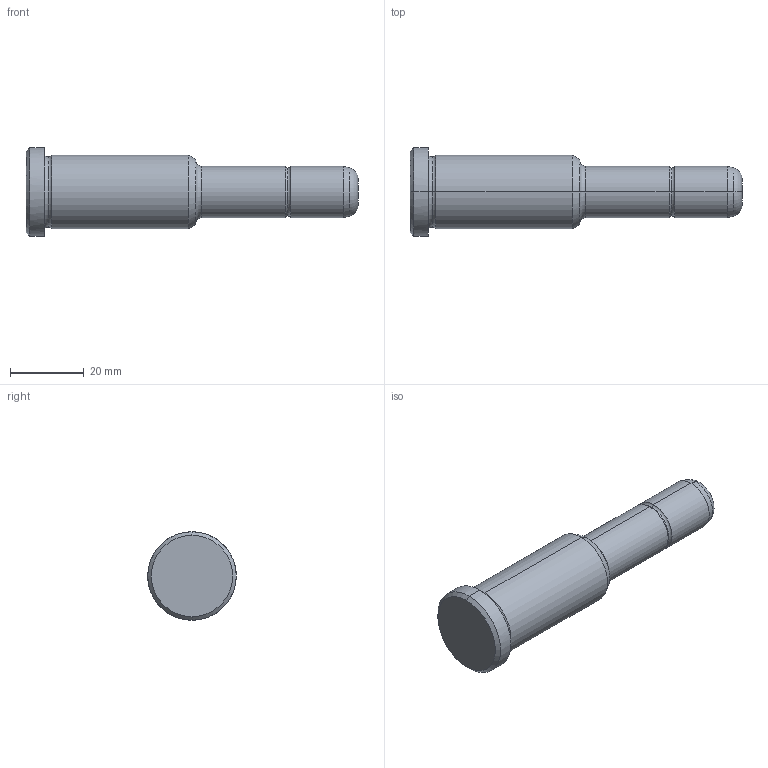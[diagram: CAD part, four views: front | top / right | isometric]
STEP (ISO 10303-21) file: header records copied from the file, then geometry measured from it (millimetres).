
FILE_DESCRIPTION(('CATIA V5 STEP Exchange'),'2;1');
FILE_NAME('C:\Users\Utente\Desktop\IO LAVORO\3D X SITO CF\X SITO\PLASTICA\351\351-14X46X90.stp','2021-08-18T10:42:00+00:00',('none'),('none'),'CATIA Version 5 Release 20 GA (IN-10)','CATIA V5 STEP AP203','none');
FILE_SCHEMA(('CONFIG_CONTROL_DESIGN'));
Length unit declared in the file: millimetre
Products named in the file (1): 351-14X46X90
Bounding box: 90 x 24 x 24 mm (x, y, z)
Volume: 21639.4 mm3; surface area: 5614.6 mm2
Topology: 1 solids, 1 shells, 30 faces, 86 edges, 60 vertices
Faces by surface type: torus 12, cylinder 8, cone 6, plane 4
Entity records: 1112 total; most frequent: CARTESIAN_POINT 289, ORIENTED_EDGE 172, DIRECTION 138, AXIS2_PLACEMENT_3D 95, EDGE_CURVE 86, CIRCLE 64, VERTEX_POINT 60, EDGE_LOOP 32
